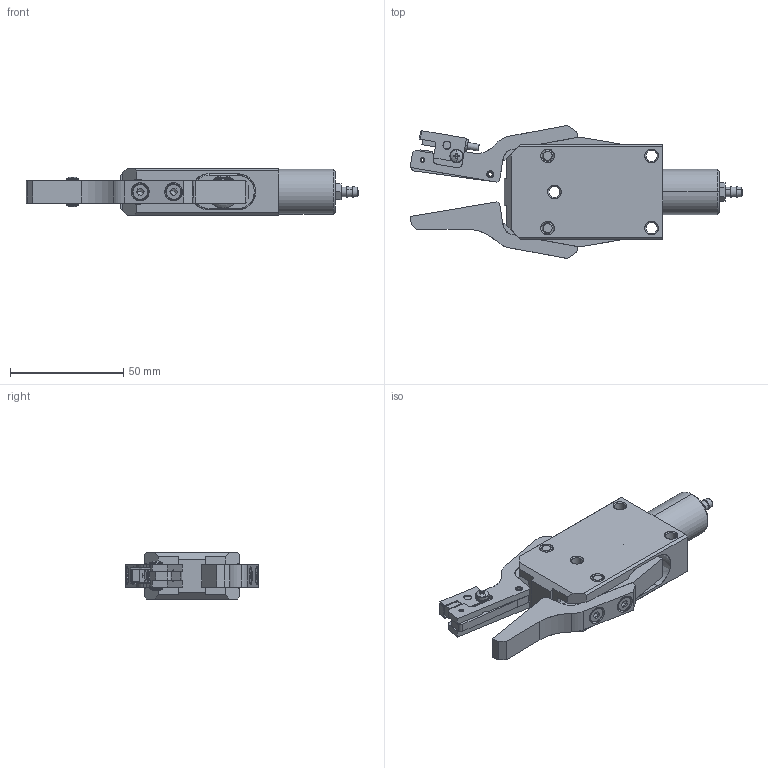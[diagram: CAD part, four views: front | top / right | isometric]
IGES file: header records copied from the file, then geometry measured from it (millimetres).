
Start section: SolidWorks IGES file using analytic representation for surfaces
Global section: file name: \\Ss-share1\star共有\030eins事業部\21八代\業務\2月1日納期データ\023292\023292.IGS; native system: SolidWorks 2016; preprocessor: SolidWorks 2016; author: STAR056C; date: 170127.133907; units: millimetre
Bounding box: 146.88 x 58.91 x 20.62 mm (x, y, z)
Surface area: 40459.5 mm2 (no closed solid volume)
Topology: 0 solids, 0 shells, 1796 faces, 20527 edges, 20509 vertices
Faces by surface type: bspline 1406, revolution 390
